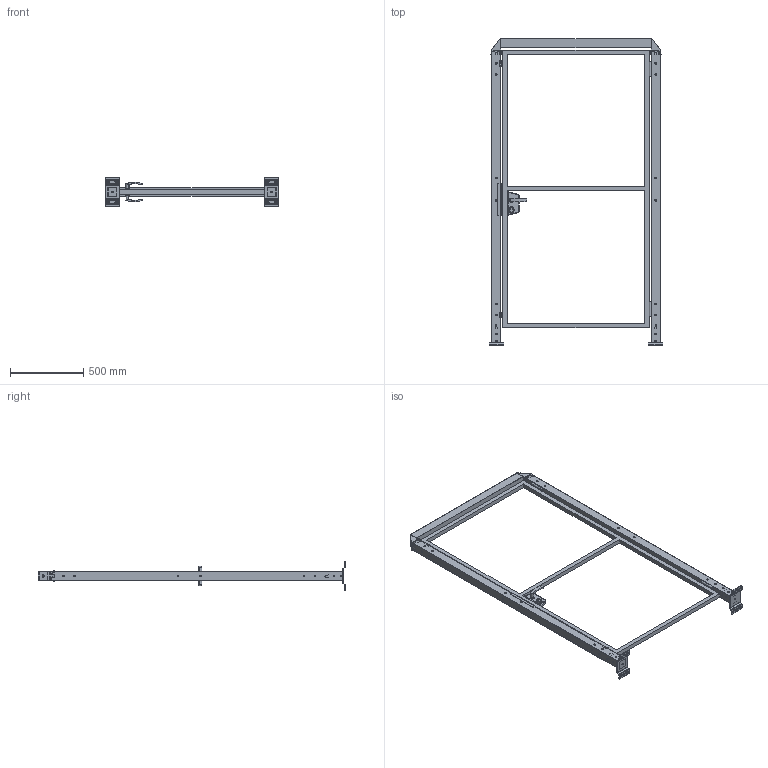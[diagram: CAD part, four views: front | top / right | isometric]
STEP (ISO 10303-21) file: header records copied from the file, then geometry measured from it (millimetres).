
FILE_DESCRIPTION(('STEP AP242'),'1');
FILE_NAME('vfda_bscgd03_10002020.stp','2025-01-31T11:25:00',('TraceParts'),('TraceParts S.A.'),'Spatial InterOp 3D',' ',' ');
FILE_SCHEMA(('AP242_MANAGED_MODEL_BASED_3D_ENGINEERING_MIM_LF {1 0 10303 442 1 1 4}'));
Length unit declared in the file: millimetre
Products named in the file (1): vfda_bscgd03_10002020_1
Bounding box: 1190 x 2101 x 192 mm (x, y, z)
Volume: 8569688.3 mm3; surface area: 3465025 mm2
Topology: 13 solids, 13 shells, 1629 faces, 4331 edges, 2766 vertices
Faces by surface type: plane 807, cylinder 554, bspline 194, cone 46, torus 28
Entity records: 67608 total; most frequent: CARTESIAN_POINT 14334, ORIENTED_EDGE 8662, DIRECTION 7987, EDGE_CURVE 4331, VERTEX_POINT 2766, AXIS2_PLACEMENT_3D 2674, LINE 2639, VECTOR 2639
